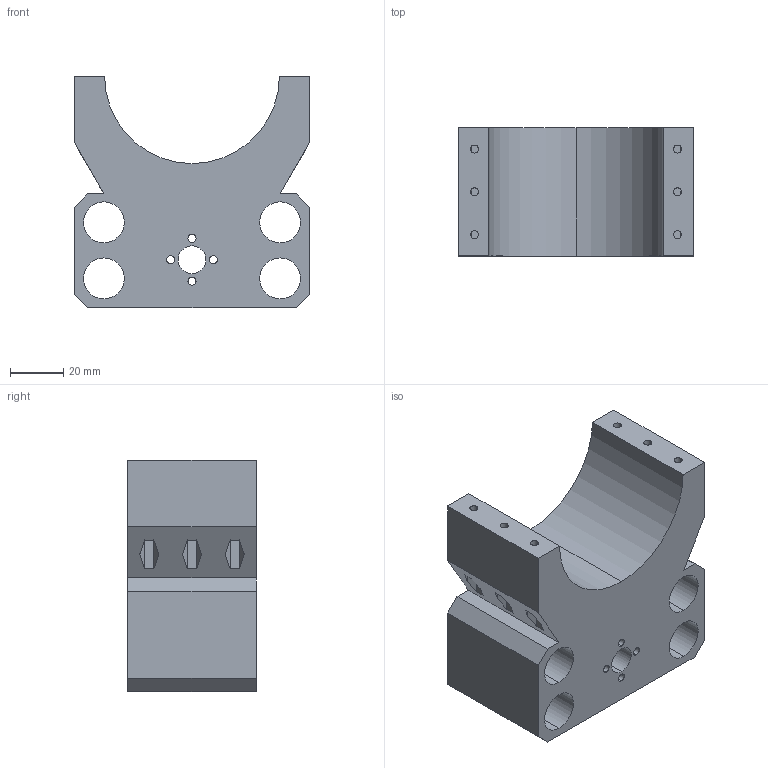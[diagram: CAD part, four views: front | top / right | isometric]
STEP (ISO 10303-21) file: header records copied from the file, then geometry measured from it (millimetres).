
FILE_DESCRIPTION (( 'STEP AP203' ), '1' );
FILE_NAME ('car 65mm2.STEP', '2023-07-14T15:46:21', ( '' ), ( '' ), 'SwSTEP 2.0', 'SolidWorks 2014', '' );
FILE_SCHEMA (( 'CONFIG_CONTROL_DESIGN' ));
Length unit declared in the file: millimetre
Products named in the file (1): car 65mm2
Bounding box: 88 x 48 x 86.7 mm (x, y, z)
Volume: 221157.6 mm3; surface area: 44782.4 mm2
Topology: 1 solids, 1 shells, 94 faces, 255 edges, 170 vertices
Faces by surface type: plane 60, cylinder 34
Entity records: 3104 total; most frequent: CARTESIAN_POINT 520, DIRECTION 513, ORIENTED_EDGE 510, EDGE_CURVE 255, LINE 187, VECTOR 187, VERTEX_POINT 170, AXIS2_PLACEMENT_3D 163
